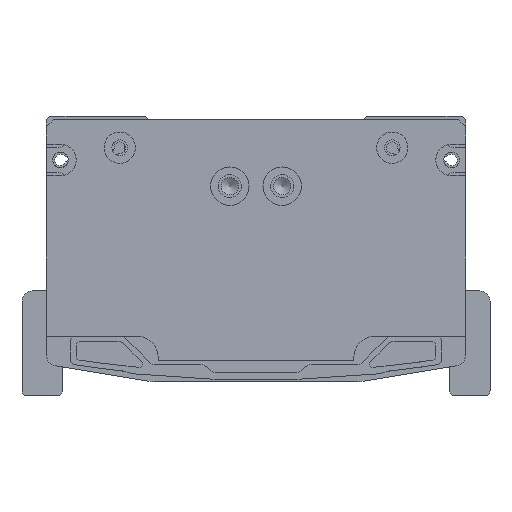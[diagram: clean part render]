
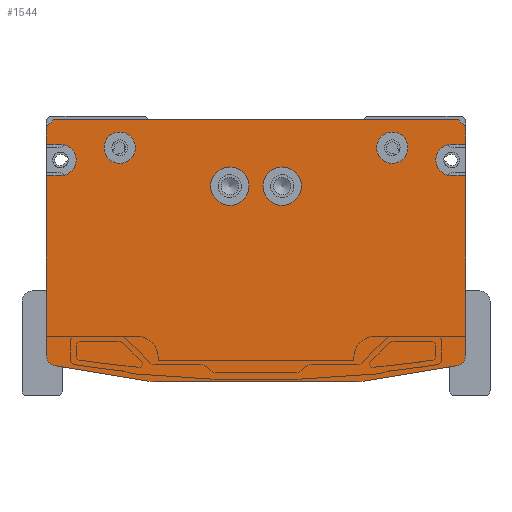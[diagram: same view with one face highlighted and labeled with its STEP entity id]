
A CAD part, front view. The second image highlights one B-rep face of the part: STEP entity #1544.
In plain terms, the highlighted planar face has unit normal (0, -1, 0).
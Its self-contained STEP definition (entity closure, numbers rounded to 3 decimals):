
#1544=ADVANCED_FACE('',(#4676,#4677,#4678,#4679,#4680),#2147,.F.);
#2147=PLANE('',#15363);
#2574=LINE('',#21868,#3608);
#2578=LINE('',#21876,#3612);
#2711=LINE('',#22634,#3745);
#2738=LINE('',#22688,#3772);
#2742=LINE('',#22696,#3776);
#2916=LINE('',#23883,#3950);
#2918=LINE('',#23886,#3952);
#2922=LINE('',#23893,#3956);
#2925=LINE('',#23902,#3959);
#2938=LINE('',#23937,#3972);
#2943=LINE('',#23951,#3977);
#2947=LINE('',#23963,#3981);
#2969=LINE('',#24025,#4003);
#2972=LINE('',#24034,#4006);
#3608=VECTOR('',#16994,1.);
#3612=VECTOR('',#16998,1.);
#3745=VECTOR('',#17445,1.);
#3772=VECTOR('',#17486,1.);
#3776=VECTOR('',#17490,1.);
#3950=VECTOR('',#18298,1.);
#3952=VECTOR('',#18302,1.);
#3956=VECTOR('',#18308,1.);
#3959=VECTOR('',#18319,1.);
#3972=VECTOR('',#18352,1.);
#3977=VECTOR('',#18365,1.);
#3981=VECTOR('',#18377,1.);
#4003=VECTOR('',#18453,1.);
#4006=VECTOR('',#18464,1.);
#4676=FACE_BOUND('',#5715,.T.);
#4677=FACE_BOUND('',#5716,.T.);
#4678=FACE_BOUND('',#5717,.T.);
#4679=FACE_BOUND('',#5718,.T.);
#4680=FACE_BOUND('',#5719,.T.);
#5715=EDGE_LOOP('',(#8385));
#5716=EDGE_LOOP('',(#8386));
#5717=EDGE_LOOP('',(#8387,#8388,#8389,#8390,#8391,#8392,#8393,#8394,#8395,
#8396,#8397,#8398,#8399,#8400,#8401,#8402,#8403,#8404,#8405,#8406));
#5718=EDGE_LOOP('',(#8407));
#5719=EDGE_LOOP('',(#8408));
#8385=ORIENTED_EDGE('',*,*,#12837,.T.);
#8386=ORIENTED_EDGE('',*,*,#12841,.T.);
#8387=ORIENTED_EDGE('',*,*,#12902,.T.);
#8388=ORIENTED_EDGE('',*,*,#12898,.F.);
#8389=ORIENTED_EDGE('',*,*,#12896,.F.);
#8390=ORIENTED_EDGE('',*,*,#12893,.F.);
#8391=ORIENTED_EDGE('',*,*,#12889,.T.);
#8392=ORIENTED_EDGE('',*,*,#12886,.T.);
#8393=ORIENTED_EDGE('',*,*,#12531,.F.);
#8394=ORIENTED_EDGE('',*,*,#12872,.T.);
#8395=ORIENTED_EDGE('',*,*,#12869,.T.);
#8396=ORIENTED_EDGE('',*,*,#12867,.F.);
#8397=ORIENTED_EDGE('',*,*,#12527,.F.);
#8398=ORIENTED_EDGE('',*,*,#12863,.T.);
#8399=ORIENTED_EDGE('',*,*,#12500,.F.);
#8400=ORIENTED_EDGE('',*,*,#12861,.T.);
#8401=ORIENTED_EDGE('',*,*,#12260,.F.);
#8402=ORIENTED_EDGE('',*,*,#12937,.T.);
#8403=ORIENTED_EDGE('',*,*,#12934,.T.);
#8404=ORIENTED_EDGE('',*,*,#12932,.F.);
#8405=ORIENTED_EDGE('',*,*,#12256,.F.);
#8406=ORIENTED_EDGE('',*,*,#12905,.T.);
#8407=ORIENTED_EDGE('',*,*,#12848,.F.);
#8408=ORIENTED_EDGE('',*,*,#12844,.F.);
#10739=VERTEX_POINT('',#21867);
#10740=VERTEX_POINT('',#21869);
#10743=VERTEX_POINT('',#21875);
#10744=VERTEX_POINT('',#21877);
#10869=VERTEX_POINT('',#22633);
#10870=VERTEX_POINT('',#22635);
#10889=VERTEX_POINT('',#22687);
#10890=VERTEX_POINT('',#22689);
#10893=VERTEX_POINT('',#22695);
#10894=VERTEX_POINT('',#22697);
#11109=VERTEX_POINT('',#23826);
#11113=VERTEX_POINT('',#23837);
#11116=VERTEX_POINT('',#23846);
#11119=VERTEX_POINT('',#23856);
#11127=VERTEX_POINT('',#23891);
#11129=VERTEX_POINT('',#23898);
#11140=VERTEX_POINT('',#23932);
#11142=VERTEX_POINT('',#23938);
#11145=VERTEX_POINT('',#23946);
#11147=VERTEX_POINT('',#23952);
#11148=VERTEX_POINT('',#23956);
#11151=VERTEX_POINT('',#23964);
#11163=VERTEX_POINT('',#24023);
#11165=VERTEX_POINT('',#24030);
#12256=EDGE_CURVE('',#10739,#10740,#2574,.T.);
#12260=EDGE_CURVE('',#10743,#10744,#2578,.T.);
#12500=EDGE_CURVE('',#10869,#10870,#2711,.T.);
#12527=EDGE_CURVE('',#10889,#10890,#2738,.T.);
#12531=EDGE_CURVE('',#10893,#10894,#2742,.T.);
#12837=EDGE_CURVE('',#11109,#11109,#14108,.T.);
#12841=EDGE_CURVE('',#11113,#11113,#14112,.T.);
#12844=EDGE_CURVE('',#11116,#11116,#14115,.T.);
#12848=EDGE_CURVE('',#11119,#11119,#14119,.T.);
#12861=EDGE_CURVE('',#10869,#10744,#2916,.T.);
#12863=EDGE_CURVE('',#10889,#10870,#2918,.T.);
#12867=EDGE_CURVE('',#10890,#11127,#2922,.T.);
#12869=EDGE_CURVE('',#11129,#11127,#14126,.T.);
#12872=EDGE_CURVE('',#10893,#11129,#2925,.T.);
#12886=EDGE_CURVE('',#11140,#10894,#14129,.T.);
#12889=EDGE_CURVE('',#11142,#11140,#2938,.T.);
#12893=EDGE_CURVE('',#11142,#11145,#14132,.T.);
#12896=EDGE_CURVE('',#11145,#11147,#2943,.T.);
#12898=EDGE_CURVE('',#11147,#11148,#14133,.T.);
#12902=EDGE_CURVE('',#11151,#11148,#2947,.T.);
#12905=EDGE_CURVE('',#10739,#11151,#14136,.T.);
#12932=EDGE_CURVE('',#10740,#11163,#2969,.T.);
#12934=EDGE_CURVE('',#11165,#11163,#14144,.T.);
#12937=EDGE_CURVE('',#10743,#11165,#2972,.T.);
#14108=CIRCLE('',#15264,5.5);
#14112=CIRCLE('',#15271,5.5);
#14115=CIRCLE('',#15277,4.5);
#14119=CIRCLE('',#15284,4.5);
#14126=CIRCLE('',#15302,4.5);
#14129=CIRCLE('',#15311,3.);
#14132=CIRCLE('',#15316,10.);
#14133=CIRCLE('',#15319,10.);
#14136=CIRCLE('',#15324,3.);
#14144=CIRCLE('',#15351,4.5);
#15264=AXIS2_PLACEMENT_3D('',#23825,#18223,#18224);
#15271=AXIS2_PLACEMENT_3D('',#23836,#18237,#18238);
#15277=AXIS2_PLACEMENT_3D('',#23845,#18249,#18250);
#15284=AXIS2_PLACEMENT_3D('',#23855,#18263,#18264);
#15302=AXIS2_PLACEMENT_3D('',#23897,#18313,#18314);
#15311=AXIS2_PLACEMENT_3D('',#23931,#18345,#18346);
#15316=AXIS2_PLACEMENT_3D('',#23945,#18359,#18360);
#15319=AXIS2_PLACEMENT_3D('',#23955,#18369,#18370);
#15324=AXIS2_PLACEMENT_3D('',#23968,#18383,#18384);
#15351=AXIS2_PLACEMENT_3D('',#24029,#18458,#18459);
#15363=AXIS2_PLACEMENT_3D('',#24051,#18489,#18490);
#16994=DIRECTION('',(0.,0.,1.));
#16998=DIRECTION('',(0.,0.,1.));
#17445=DIRECTION('',(1.,0.,0.));
#17486=DIRECTION('',(0.,0.,-1.));
#17490=DIRECTION('',(0.,0.,-1.));
#18223=DIRECTION('',(0.,1.,0.));
#18224=DIRECTION('',(1.,0.,0.));
#18237=DIRECTION('',(0.,1.,0.));
#18238=DIRECTION('',(1.,0.,0.));
#18249=DIRECTION('',(0.,-1.,0.));
#18250=DIRECTION('',(1.,0.,0.));
#18263=DIRECTION('',(0.,-1.,0.));
#18264=DIRECTION('',(1.,0.,0.));
#18298=DIRECTION('',(-0.707,0.,-0.707));
#18302=DIRECTION('',(-0.707,0.,0.707));
#18308=DIRECTION('',(-1.,0.,0.));
#18313=DIRECTION('',(0.,1.,0.));
#18314=DIRECTION('',(0.,0.,-1.));
#18319=DIRECTION('',(-1.,0.,0.));
#18345=DIRECTION('',(0.,-1.,0.));
#18346=DIRECTION('',(0.164,0.,-0.986));
#18352=DIRECTION('',(0.986,0.,0.164));
#18359=DIRECTION('',(0.,1.,0.));
#18360=DIRECTION('',(0.164,0.,-0.986));
#18365=DIRECTION('',(-1.,0.,0.));
#18369=DIRECTION('',(0.,1.,0.));
#18370=DIRECTION('',(0.,0.,-1.));
#18377=DIRECTION('',(0.986,0.,-0.164));
#18383=DIRECTION('',(0.,-1.,0.));
#18384=DIRECTION('',(-1.,0.,0.));
#18453=DIRECTION('',(1.,0.,0.));
#18458=DIRECTION('',(0.,1.,0.));
#18459=DIRECTION('',(0.,0.,1.));
#18464=DIRECTION('',(1.,0.,0.));
#18489=DIRECTION('',(0.,1.,0.));
#18490=DIRECTION('',(1.,0.,0.));
#21867=CARTESIAN_POINT('',(-60.,-812.,-69.459));
#21868=CARTESIAN_POINT('',(-60.,-812.,-69.459));
#21869=CARTESIAN_POINT('',(-60.,-812.,-18.));
#21875=CARTESIAN_POINT('',(-60.,-812.,-9.));
#21876=CARTESIAN_POINT('',(-60.,-812.,-9.));
#21877=CARTESIAN_POINT('',(-60.,-812.,-4.));
#22633=CARTESIAN_POINT('',(-58.,-812.,-2.));
#22634=CARTESIAN_POINT('',(-58.,-812.,-2.));
#22635=CARTESIAN_POINT('',(58.,-812.,-2.));
#22687=CARTESIAN_POINT('',(60.,-812.,-4.));
#22688=CARTESIAN_POINT('',(60.,-812.,-4.));
#22689=CARTESIAN_POINT('',(60.,-812.,-9.));
#22695=CARTESIAN_POINT('',(60.,-812.,-18.));
#22696=CARTESIAN_POINT('',(60.,-812.,-18.));
#22697=CARTESIAN_POINT('',(60.,-812.,-69.459));
#23825=CARTESIAN_POINT('',(7.5,-812.,-21.));
#23826=CARTESIAN_POINT('',(13.,-812.,-21.));
#23836=CARTESIAN_POINT('',(-7.5,-812.,-21.));
#23837=CARTESIAN_POINT('',(-2.,-812.,-21.));
#23845=CARTESIAN_POINT('',(-39.,-812.,-10.));
#23846=CARTESIAN_POINT('',(-34.5,-812.,-10.));
#23855=CARTESIAN_POINT('',(39.,-812.,-10.));
#23856=CARTESIAN_POINT('',(43.5,-812.,-10.));
#23883=CARTESIAN_POINT('',(-58.,-812.,-2.));
#23886=CARTESIAN_POINT('',(60.,-812.,-4.));
#23891=CARTESIAN_POINT('',(56.,-812.,-9.));
#23893=CARTESIAN_POINT('',(60.,-812.,-9.));
#23897=CARTESIAN_POINT('',(56.,-812.,-13.5));
#23898=CARTESIAN_POINT('',(56.,-812.,-18.));
#23902=CARTESIAN_POINT('',(60.,-812.,-18.));
#23931=CARTESIAN_POINT('',(57.,-812.,-69.459));
#23932=CARTESIAN_POINT('',(57.493,-812.,-72.418));
#23937=CARTESIAN_POINT('',(30.816,-812.,-76.864));
#23938=CARTESIAN_POINT('',(30.816,-812.,-76.864));
#23945=CARTESIAN_POINT('',(29.172,-812.,-67.));
#23946=CARTESIAN_POINT('',(29.172,-812.,-77.));
#23951=CARTESIAN_POINT('',(29.172,-812.,-77.));
#23952=CARTESIAN_POINT('',(-29.172,-812.,-77.));
#23955=CARTESIAN_POINT('',(-29.172,-812.,-67.));
#23956=CARTESIAN_POINT('',(-30.816,-812.,-76.864));
#23963=CARTESIAN_POINT('',(-57.493,-812.,-72.418));
#23964=CARTESIAN_POINT('',(-57.493,-812.,-72.418));
#23968=CARTESIAN_POINT('',(-57.,-812.,-69.459));
#24023=CARTESIAN_POINT('',(-56.,-812.,-18.));
#24025=CARTESIAN_POINT('',(-60.,-812.,-18.));
#24029=CARTESIAN_POINT('',(-56.,-812.,-13.5));
#24030=CARTESIAN_POINT('',(-56.,-812.,-9.));
#24034=CARTESIAN_POINT('',(-60.,-812.,-9.));
#24051=CARTESIAN_POINT('',(0.,-812.,-2.));
